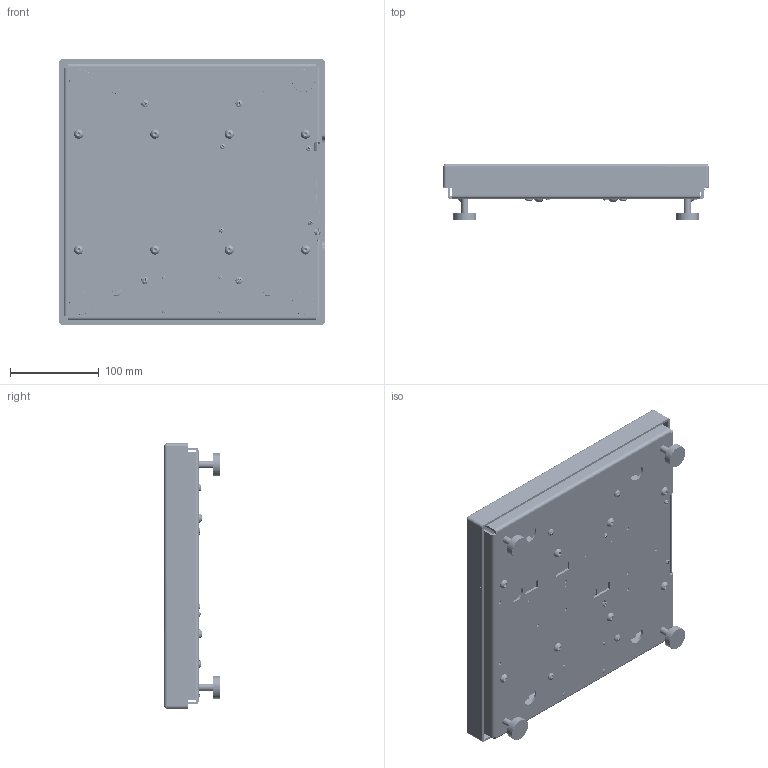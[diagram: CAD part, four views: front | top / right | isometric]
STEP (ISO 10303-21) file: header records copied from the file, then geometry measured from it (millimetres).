
FILE_DESCRIPTION (( 'STEP AP214' ), '1' );
FILE_NAME ('E-SCALE-6610-1212-66.STEP', '2019-08-29T22:17:55', ( '' ), ( '' ), 'SwSTEP 2.0', 'SolidWorks 2017', '' );
FILE_SCHEMA (( 'AUTOMOTIVE_DESIGN' ));
Length unit declared in the file: inch
Products named in the file (55): Chassis fastener Winchester Electronics A1591B; 0075294; Bivar Spacer_TO-201-040; 0074871; 0075304_42-000189; 0075173_B1 & 2; pan cross head_ai_CR-PHMS 0.164-32x0.3125x0.3125-N-A2.70; flat washer type a selected narrow_ai_Selected Narrow FW 0.125; 2814-0098-0_90633A007; 0074881_PBSH-7.5kg SUB-ASSEMBLY; flat head screw_ai_CR-FHMS 0.164-32x0.875x0.875-N-A2.70; machine screw nut hex_ai_MSHXNUT 0.164-32-D-N; 0075231_PBSH-30kg 300 X 300; 0075172_A1 & 2; 0074914_Modified By Hardy; 5126-0009-0; 0075293; socket head cap screw_am_B18.3.1M - 5 x 0.8 x 20 Hex SHCS -- 20NHX-A2.70; 0530-0853-01-0; 0075200_93505A451; 0075198; 0044535; E-SCALE-6610-1212-66; lock washer spring regular_ai_Regular LW 0.112; 0075287_C2 CHIP; Amphenol_RJHSE-5080-02-REVT1; 2817-0272-0_90402A146; 0075175_84-001322; 0075308; mcv_1.5-9-g-3.81_1; 0074756_Modified By Hardy; 6610 Bare Board; 2815-0169-0_91780A521; socket button head cap screw_am_B18.3.4M - 6 x 1.0 x 20 SBHCS --N-A2.70; 2815-0168-0_91780A534; 2814-T011_90633A005; 0075290; 2143-T004; 0535-0567-02-0 WO Ethernet Port; 0075174_1 & 2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
Assembly tree (113 placements, depth 4):
  E-SCALE-6610-1212-66
    0074914_Modified By Hardy
    0075309
    0075175_84-001322  x4
      0075172_A1 & 2
      0075174_1 & 2
      0075173_B1 & 2
    machine screw nut hex_ai_MSHXNUT 0.164-32-D-N  x4
    0074756_Modified By Hardy
    0075198  x4
    0075200_93505A451  x4
    0075290
      0075233
      0018546  x4
      0075287_C2 CHIP
      0075295  x4
        0075294
        0075293
    pan cross head_ai_CR-PHMS 0.164-32x0.3125x0.3125-N-A2.70  x4
    0074881_PBSH-7.5kg SUB-ASSEMBLY  x4
      0074871
      0044535
      0066949
      socket head cap screw_am_B18.3.1M - 5 x 0.8 x 20 Hex SHCS -- 20NHX-A2.70
    0075231_PBSH-30kg 300 X 300  x4
      0075230_91780A198
      0075232_80-001903
      flat head screw_ai_CR-FHMS 0.164-32x0.875x0.875-N-A2.70
      pan cross head_ai_CR-PHMS 0.164-32x0.3125x0.3125-N-A2.70
    socket button head cap screw_am_B18.3.4M - 6 x 1.0 x 20 SBHCS --N-A2.70  x8
    2814-0098-0_90633A007  x2
    2143-T013
    2143-T004
    flat washer type a selected narrow_ai_Selected Narrow FW 0.125  x5
    2814-T011_90633A005
    0514-0242-01-0_Rev A
    2817-0272-0_90402A146
    0535-0567-02-0 WO Ethernet Port
      6610 Bare Board
      Chassis fastener Winchester Electronics A1591B  x2
      red_green_LED
      5126-0009-0
      Amphenol_RJHSE-5080-02-REVT1
      2140-0144-09-0
        mcv_1.5-9-g-3.81_1
      Phoenix_1803646
      Bivar Spacer_TO-201-040  x4
    pan cross head_ai_CR-PHMS 0.112-40x0.5x0.5-N  x4
    2815-0169-0_91780A521  x7
    2815-0168-0_91780A534
    lock washer spring regular_ai_Regular LW 0.112  x4
    0530-0853-01-0
    0530-0856-01-0
    0530-0854-XX-0
    0075304_42-000189
    0075308
Bounding box: 298.32 x 62.96 x 298.19 mm (x, y, z)
Volume: 822507.5 mm3; surface area: 651301.8 mm2
Topology: 673 solids, 676 shells, 18804 faces, 48499 edges, 31582 vertices
Faces by surface type: plane 9704, bspline 5470, cylinder 2462, cone 928, torus 166, sphere 74
Entity records: 692562 total; most frequent: CARTESIAN_POINT 199539, ORIENTED_EDGE 80392, DIRECTION 51128, EDGE_CURVE 40201, VERTEX_POINT 26476, LINE 25036, VECTOR 25036, EDGE_LOOP 16463
